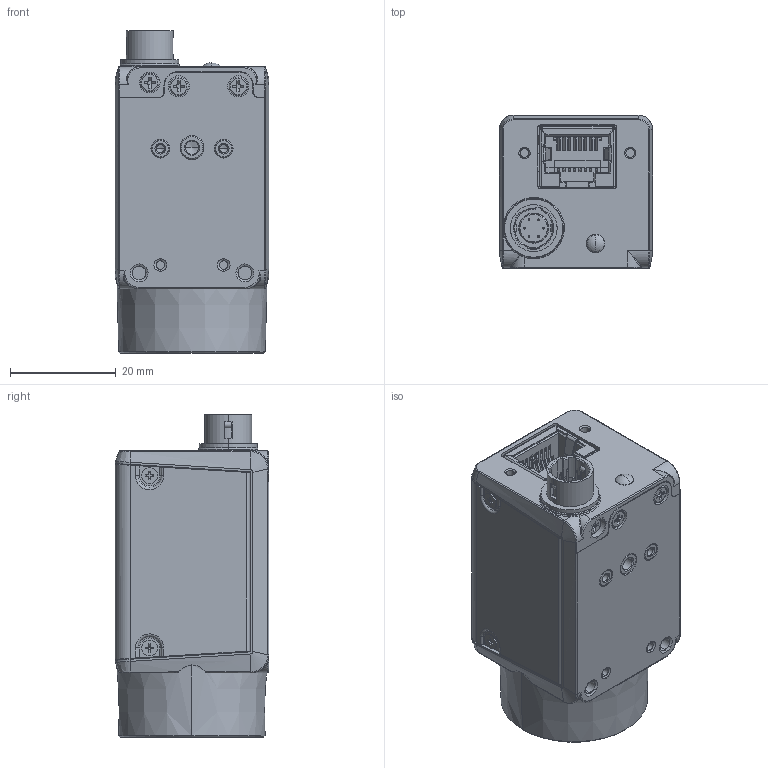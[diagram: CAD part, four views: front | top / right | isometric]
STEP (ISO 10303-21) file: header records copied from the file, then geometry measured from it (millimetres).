
FILE_DESCRIPTION((''),'2;1');
FILE_NAME('DH3-0195-6230_1','2023-11-24T14:14:10',('401332'),(''),'CREO PARAMETRIC BY PTC INC, 2020184','CREO PARAMETRIC BY PTC INC, 2020184','');
FILE_SCHEMA(('CONFIG_CONTROL_DESIGN','SHAPE_APPEARANCE_LAYERS_GROUPS'));
Products named in the file (1): DH3-0195-6230_1
Bounding box: 29 x 29.05 x 61.07 mm (x, y, z)
Volume: 30638.9 mm3; surface area: 23047.6 mm2
Topology: 1 solids, 15 shells, 2400 faces, 6632 edges, 4259 vertices
Faces by surface type: plane 1259, cylinder 656, bspline 208, cone 169, torus 67, extrusion 36, sphere 5
Entity records: 117238 total; most frequent: CARTESIAN_POINT 30837, ORIENTED_EDGE 13224, DIRECTION 11451, PRESENTATION_STYLE_ASSIGNMENT 7533, STYLED_ITEM 6650, CURVE_STYLE 6618, EDGE_CURVE 6612, VERTEX_POINT 4297
